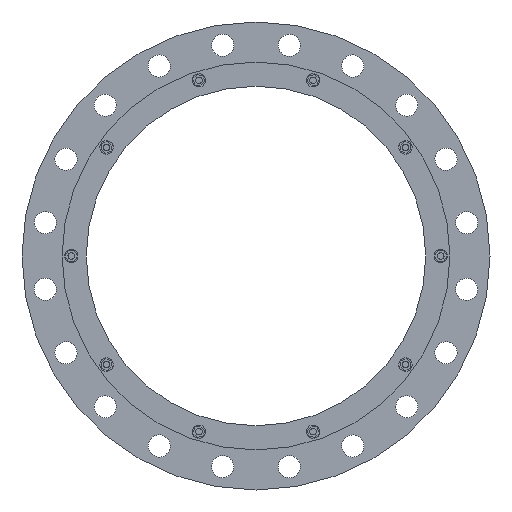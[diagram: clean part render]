
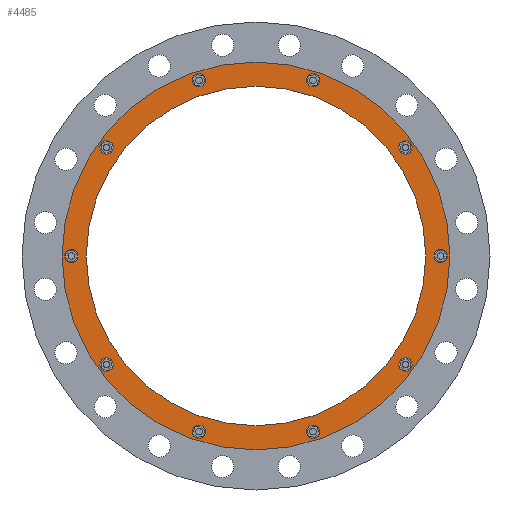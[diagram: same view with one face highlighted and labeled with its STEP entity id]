
A CAD part, front view. The second image highlights one B-rep face of the part: STEP entity #4485.
In plain terms, the highlighted planar face has unit normal (0, -1, 0).
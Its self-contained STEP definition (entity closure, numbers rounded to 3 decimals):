
#1108=CARTESIAN_POINT('',(0.,-92.452,0.));
#1109=DIRECTION('',(0.,-1.,0.));
#1110=DIRECTION('',(1.,0.,0.));
#1111=AXIS2_PLACEMENT_3D('',#1108,#1109,#1110);
#1113=CARTESIAN_POINT('',(0.,-92.452,0.));
#1114=DIRECTION('',(0.,1.,0.));
#1115=DIRECTION('',(1.,0.,0.));
#1116=AXIS2_PLACEMENT_3D('',#1113,#1114,#1115);
#1118=CARTESIAN_POINT('',(333.5,-92.452,0.));
#1119=DIRECTION('',(0.,-1.,0.));
#1120=DIRECTION('',(0.,0.,-1.));
#1121=AXIS2_PLACEMENT_3D('',#1118,#1119,#1120);
#1123=CARTESIAN_POINT('',(333.5,-92.452,0.));
#1124=DIRECTION('',(0.,-1.,0.));
#1125=DIRECTION('',(0.,0.,1.));
#1126=AXIS2_PLACEMENT_3D('',#1123,#1124,#1125);
#1128=CARTESIAN_POINT('',(269.807,-92.452,196.026));
#1129=DIRECTION('',(0.,-1.,0.));
#1130=DIRECTION('',(0.588,0.,-0.809));
#1131=AXIS2_PLACEMENT_3D('',#1128,#1129,#1130);
#1133=CARTESIAN_POINT('',(269.807,-92.452,196.026));
#1134=DIRECTION('',(0.,-1.,0.));
#1135=DIRECTION('',(-0.588,0.,0.809));
#1136=AXIS2_PLACEMENT_3D('',#1133,#1134,#1135);
#1138=CARTESIAN_POINT('',(103.057,-92.452,317.177));
#1139=DIRECTION('',(0.,-1.,0.));
#1140=DIRECTION('',(0.951,0.,-0.309));
#1141=AXIS2_PLACEMENT_3D('',#1138,#1139,#1140);
#1143=CARTESIAN_POINT('',(103.057,-92.452,317.177));
#1144=DIRECTION('',(0.,-1.,0.));
#1145=DIRECTION('',(-0.951,0.,0.309));
#1146=AXIS2_PLACEMENT_3D('',#1143,#1144,#1145);
#1148=CARTESIAN_POINT('',(-103.057,-92.452,317.177));
#1149=DIRECTION('',(0.,-1.,0.));
#1150=DIRECTION('',(0.951,0.,0.309));
#1151=AXIS2_PLACEMENT_3D('',#1148,#1149,#1150);
#1153=CARTESIAN_POINT('',(-103.057,-92.452,317.177));
#1154=DIRECTION('',(0.,-1.,0.));
#1155=DIRECTION('',(-0.951,0.,-0.309));
#1156=AXIS2_PLACEMENT_3D('',#1153,#1154,#1155);
#1158=CARTESIAN_POINT('',(-269.807,-92.452,196.026));
#1159=DIRECTION('',(0.,-1.,0.));
#1160=DIRECTION('',(0.588,0.,0.809));
#1161=AXIS2_PLACEMENT_3D('',#1158,#1159,#1160);
#1163=CARTESIAN_POINT('',(-269.807,-92.452,196.026));
#1164=DIRECTION('',(0.,-1.,0.));
#1165=DIRECTION('',(-0.588,0.,-0.809));
#1166=AXIS2_PLACEMENT_3D('',#1163,#1164,#1165);
#1168=CARTESIAN_POINT('',(-333.5,-92.452,0.));
#1169=DIRECTION('',(0.,-1.,0.));
#1170=DIRECTION('',(0.,0.,1.));
#1171=AXIS2_PLACEMENT_3D('',#1168,#1169,#1170);
#1173=CARTESIAN_POINT('',(-333.5,-92.452,0.));
#1174=DIRECTION('',(0.,-1.,0.));
#1175=DIRECTION('',(0.,0.,-1.));
#1176=AXIS2_PLACEMENT_3D('',#1173,#1174,#1175);
#1178=CARTESIAN_POINT('',(-269.807,-92.452,-196.026));
#1179=DIRECTION('',(0.,-1.,0.));
#1180=DIRECTION('',(-0.588,0.,0.809));
#1181=AXIS2_PLACEMENT_3D('',#1178,#1179,#1180);
#1183=CARTESIAN_POINT('',(-269.807,-92.452,-196.026));
#1184=DIRECTION('',(0.,-1.,0.));
#1185=DIRECTION('',(0.588,0.,-0.809));
#1186=AXIS2_PLACEMENT_3D('',#1183,#1184,#1185);
#1188=CARTESIAN_POINT('',(-103.057,-92.452,-317.177));
#1189=DIRECTION('',(0.,-1.,0.));
#1190=DIRECTION('',(-0.951,0.,0.309));
#1191=AXIS2_PLACEMENT_3D('',#1188,#1189,#1190);
#1193=CARTESIAN_POINT('',(-103.057,-92.452,-317.177));
#1194=DIRECTION('',(0.,-1.,0.));
#1195=DIRECTION('',(0.951,0.,-0.309));
#1196=AXIS2_PLACEMENT_3D('',#1193,#1194,#1195);
#1198=CARTESIAN_POINT('',(103.057,-92.452,-317.177));
#1199=DIRECTION('',(0.,-1.,0.));
#1200=DIRECTION('',(-0.951,0.,-0.309));
#1201=AXIS2_PLACEMENT_3D('',#1198,#1199,#1200);
#1203=CARTESIAN_POINT('',(103.057,-92.452,-317.177));
#1204=DIRECTION('',(0.,-1.,0.));
#1205=DIRECTION('',(0.951,0.,0.309));
#1206=AXIS2_PLACEMENT_3D('',#1203,#1204,#1205);
#1208=CARTESIAN_POINT('',(269.807,-92.452,-196.026));
#1209=DIRECTION('',(0.,-1.,0.));
#1210=DIRECTION('',(-0.588,0.,-0.809));
#1211=AXIS2_PLACEMENT_3D('',#1208,#1209,#1210);
#1213=CARTESIAN_POINT('',(269.807,-92.452,-196.026));
#1214=DIRECTION('',(0.,-1.,0.));
#1215=DIRECTION('',(0.588,0.,0.809));
#1216=AXIS2_PLACEMENT_3D('',#1213,#1214,#1215);
#1218=CARTESIAN_POINT('',(0.,-92.452,0.));
#1219=DIRECTION('',(0.,1.,0.));
#1220=DIRECTION('',(1.,0.,0.));
#1221=AXIS2_PLACEMENT_3D('',#1218,#1219,#1220);
#1231=CARTESIAN_POINT('',(0.,-92.452,0.));
#1232=DIRECTION('',(0.,-1.,0.));
#1233=DIRECTION('',(1.,0.,0.));
#1234=AXIS2_PLACEMENT_3D('',#1231,#1232,#1233);
#2983=CARTESIAN_POINT('',(350.1,-92.452,0.));
#2985=VERTEX_POINT('',#2983);
#2986=CARTESIAN_POINT('',(306.5,-92.452,0.));
#2988=VERTEX_POINT('',#2986);
#2995=CARTESIAN_POINT('',(-350.1,-92.452,0.));
#2997=VERTEX_POINT('',#2995);
#2998=CARTESIAN_POINT('',(-306.5,-92.452,0.));
#3000=VERTEX_POINT('',#2998);
#3037=CARTESIAN_POINT('',(333.5,-92.452,-12.));
#3038=CARTESIAN_POINT('',(333.5,-92.452,12.));
#3039=VERTEX_POINT('',#3037);
#3040=VERTEX_POINT('',#3038);
#3086=CARTESIAN_POINT('',(276.861,-92.452,186.318));
#3087=VERTEX_POINT('',#3086);
#3088=CARTESIAN_POINT('',(262.754,-92.452,205.735));
#3089=VERTEX_POINT('',#3088);
#3130=CARTESIAN_POINT('',(114.47,-92.452,313.469));
#3131=VERTEX_POINT('',#3130);
#3132=CARTESIAN_POINT('',(91.644,-92.452,320.886));
#3133=VERTEX_POINT('',#3132);
#3174=CARTESIAN_POINT('',(-91.644,-92.452,320.886));
#3175=VERTEX_POINT('',#3174);
#3176=CARTESIAN_POINT('',(-114.47,-92.452,313.469));
#3177=VERTEX_POINT('',#3176);
#3218=CARTESIAN_POINT('',(-262.754,-92.452,205.735));
#3219=VERTEX_POINT('',#3218);
#3220=CARTESIAN_POINT('',(-276.861,-92.452,186.318));
#3221=VERTEX_POINT('',#3220);
#3262=CARTESIAN_POINT('',(-333.5,-92.452,12.));
#3263=VERTEX_POINT('',#3262);
#3264=CARTESIAN_POINT('',(-333.5,-92.452,-12.));
#3265=VERTEX_POINT('',#3264);
#3306=CARTESIAN_POINT('',(-276.861,-92.452,-186.318));
#3307=VERTEX_POINT('',#3306);
#3308=CARTESIAN_POINT('',(-262.754,-92.452,-205.735));
#3309=VERTEX_POINT('',#3308);
#3350=CARTESIAN_POINT('',(-114.47,-92.452,-313.469));
#3351=VERTEX_POINT('',#3350);
#3352=CARTESIAN_POINT('',(-91.644,-92.452,-320.886));
#3353=VERTEX_POINT('',#3352);
#3565=CARTESIAN_POINT('',(91.644,-92.452,-320.886));
#3566=VERTEX_POINT('',#3565);
#3567=CARTESIAN_POINT('',(114.47,-92.452,-313.469));
#3568=VERTEX_POINT('',#3567);
#3609=CARTESIAN_POINT('',(262.754,-92.452,-205.735));
#3610=VERTEX_POINT('',#3609);
#3611=CARTESIAN_POINT('',(276.861,-92.452,-186.318));
#3612=VERTEX_POINT('',#3611);
#4410=CARTESIAN_POINT('',(0.,-92.452,0.));
#4411=DIRECTION('',(0.,1.,0.));
#4412=DIRECTION('',(-1.,0.,0.));
#4413=AXIS2_PLACEMENT_3D('',#4410,#4411,#4412);
#4414=PLANE('',#4413);
#4416=ORIENTED_EDGE('',*,*,#4415,.F.);
#4418=ORIENTED_EDGE('',*,*,#4417,.T.);
#4419=EDGE_LOOP('',(#4416,#4418));
#4420=FACE_OUTER_BOUND('',#4419,.F.);
#4422=ORIENTED_EDGE('',*,*,#4421,.F.);
#4424=ORIENTED_EDGE('',*,*,#4423,.T.);
#4425=EDGE_LOOP('',(#4422,#4424));
#4426=FACE_BOUND('',#4425,.F.);
#4428=ORIENTED_EDGE('',*,*,#4427,.T.);
#4430=ORIENTED_EDGE('',*,*,#4429,.T.);
#4431=EDGE_LOOP('',(#4428,#4430));
#4432=FACE_BOUND('',#4431,.F.);
#4434=ORIENTED_EDGE('',*,*,#4433,.T.);
#4436=ORIENTED_EDGE('',*,*,#4435,.T.);
#4437=EDGE_LOOP('',(#4434,#4436));
#4438=FACE_BOUND('',#4437,.F.);
#4440=ORIENTED_EDGE('',*,*,#4439,.T.);
#4442=ORIENTED_EDGE('',*,*,#4441,.T.);
#4443=EDGE_LOOP('',(#4440,#4442));
#4444=FACE_BOUND('',#4443,.F.);
#4446=ORIENTED_EDGE('',*,*,#4445,.T.);
#4448=ORIENTED_EDGE('',*,*,#4447,.T.);
#4449=EDGE_LOOP('',(#4446,#4448));
#4450=FACE_BOUND('',#4449,.F.);
#4452=ORIENTED_EDGE('',*,*,#4451,.T.);
#4454=ORIENTED_EDGE('',*,*,#4453,.T.);
#4455=EDGE_LOOP('',(#4452,#4454));
#4456=FACE_BOUND('',#4455,.F.);
#4458=ORIENTED_EDGE('',*,*,#4457,.T.);
#4460=ORIENTED_EDGE('',*,*,#4459,.T.);
#4461=EDGE_LOOP('',(#4458,#4460));
#4462=FACE_BOUND('',#4461,.F.);
#4464=ORIENTED_EDGE('',*,*,#4463,.T.);
#4466=ORIENTED_EDGE('',*,*,#4465,.T.);
#4467=EDGE_LOOP('',(#4464,#4466));
#4468=FACE_BOUND('',#4467,.F.);
#4470=ORIENTED_EDGE('',*,*,#4469,.T.);
#4472=ORIENTED_EDGE('',*,*,#4471,.T.);
#4473=EDGE_LOOP('',(#4470,#4472));
#4474=FACE_BOUND('',#4473,.F.);
#4475=ORIENTED_EDGE('',*,*,#4392,.T.);
#4476=ORIENTED_EDGE('',*,*,#4403,.T.);
#4477=EDGE_LOOP('',(#4475,#4476));
#4478=FACE_BOUND('',#4477,.F.);
#4480=ORIENTED_EDGE('',*,*,#4479,.T.);
#4482=ORIENTED_EDGE('',*,*,#4481,.T.);
#4483=EDGE_LOOP('',(#4480,#4482));
#4484=FACE_BOUND('',#4483,.F.);
#4485=ADVANCED_FACE('',(#4420,#4426,#4432,#4438,#4444,#4450,#4456,#4462,#4468,
#4474,#4478,#4484),#4414,.F.);
#1112=CIRCLE('',#1111,350.1);
#1117=CIRCLE('',#1116,350.1);
#1122=CIRCLE('',#1121,12.);
#1127=CIRCLE('',#1126,12.);
#1132=CIRCLE('',#1131,12.);
#1137=CIRCLE('',#1136,12.);
#1142=CIRCLE('',#1141,12.);
#1147=CIRCLE('',#1146,12.);
#1152=CIRCLE('',#1151,12.);
#1157=CIRCLE('',#1156,12.);
#1162=CIRCLE('',#1161,12.);
#1167=CIRCLE('',#1166,12.);
#1172=CIRCLE('',#1171,12.);
#1177=CIRCLE('',#1176,12.);
#1182=CIRCLE('',#1181,12.);
#1187=CIRCLE('',#1186,12.);
#1192=CIRCLE('',#1191,12.);
#1197=CIRCLE('',#1196,12.);
#1202=CIRCLE('',#1201,12.);
#1207=CIRCLE('',#1206,12.);
#1212=CIRCLE('',#1211,12.);
#1217=CIRCLE('',#1216,12.);
#1222=CIRCLE('',#1221,306.5);
#1235=CIRCLE('',#1234,306.5);
#4392=EDGE_CURVE('',#3566,#3568,#1202,.T.);
#4403=EDGE_CURVE('',#3568,#3566,#1207,.T.);
#4415=EDGE_CURVE('',#2985,#2997,#1112,.T.);
#4417=EDGE_CURVE('',#2985,#2997,#1117,.T.);
#4421=EDGE_CURVE('',#2988,#3000,#1222,.T.);
#4423=EDGE_CURVE('',#2988,#3000,#1235,.T.);
#4427=EDGE_CURVE('',#3039,#3040,#1122,.T.);
#4429=EDGE_CURVE('',#3040,#3039,#1127,.T.);
#4433=EDGE_CURVE('',#3087,#3089,#1132,.T.);
#4435=EDGE_CURVE('',#3089,#3087,#1137,.T.);
#4439=EDGE_CURVE('',#3131,#3133,#1142,.T.);
#4441=EDGE_CURVE('',#3133,#3131,#1147,.T.);
#4445=EDGE_CURVE('',#3175,#3177,#1152,.T.);
#4447=EDGE_CURVE('',#3177,#3175,#1157,.T.);
#4451=EDGE_CURVE('',#3219,#3221,#1162,.T.);
#4453=EDGE_CURVE('',#3221,#3219,#1167,.T.);
#4457=EDGE_CURVE('',#3263,#3265,#1172,.T.);
#4459=EDGE_CURVE('',#3265,#3263,#1177,.T.);
#4463=EDGE_CURVE('',#3307,#3309,#1182,.T.);
#4465=EDGE_CURVE('',#3309,#3307,#1187,.T.);
#4469=EDGE_CURVE('',#3351,#3353,#1192,.T.);
#4471=EDGE_CURVE('',#3353,#3351,#1197,.T.);
#4479=EDGE_CURVE('',#3610,#3612,#1212,.T.);
#4481=EDGE_CURVE('',#3612,#3610,#1217,.T.);
